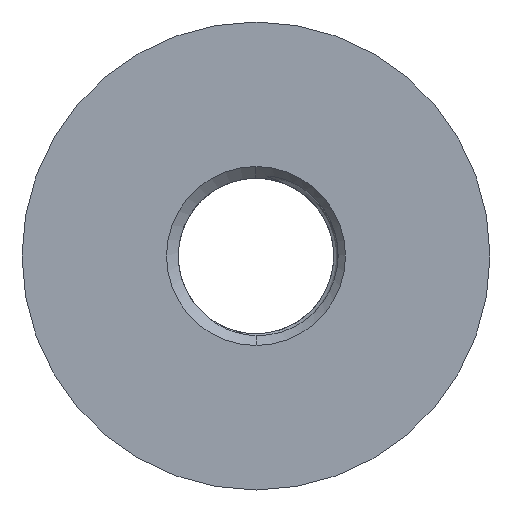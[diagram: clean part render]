
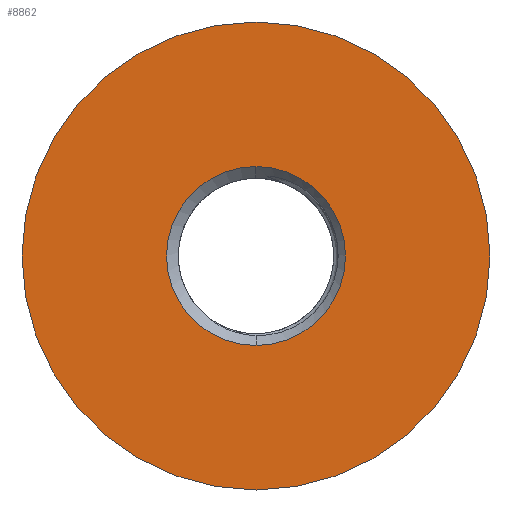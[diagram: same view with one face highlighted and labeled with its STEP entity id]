
A CAD part, left-side view. The second image highlights one B-rep face of the part: STEP entity #8862.
In plain terms, the highlighted planar face has unit normal (-1, 0, 0).
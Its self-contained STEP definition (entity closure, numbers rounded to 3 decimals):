
#2054 = DIRECTION ( 'NONE',  ( 0., 0., 1. ) ) ;
#2055 = DIRECTION ( 'NONE',  ( -1., 0., 0. ) ) ;
#2056 = CARTESIAN_POINT ( 'NONE',  ( -15., 6.912, 0. ) ) ;
#2067 = PLANE ( 'NONE',  #2070 ) ;
#2068 = FACE_BOUND ( 'NONE', #8829, .T. ) ;
#2070 = AXIS2_PLACEMENT_3D ( 'NONE', #2056, #2055, #2054 ) ;
#2071 = FACE_OUTER_BOUND ( 'NONE', #8839, .T. ) ;
#6201 = DIRECTION ( 'NONE',  ( 1., 0., 0. ) ) ;
#6202 = CARTESIAN_POINT ( 'NONE',  ( -15., 0., 0. ) ) ;
#6203 = AXIS2_PLACEMENT_3D ( 'NONE', #6202, #6201, #6613 ) ;
#6204 = CIRCLE ( 'NONE', #6203, 10. ) ;
#6368 = EDGE_CURVE ( 'NONE', #6369, #6370, #6204, .T. ) ;
#6369 = VERTEX_POINT ( 'NONE', #9689 ) ;
#6370 = VERTEX_POINT ( 'NONE', #9688 ) ;
#6613 = DIRECTION ( 'NONE',  ( 0., 0., -1. ) ) ;
#7093 = VERTEX_POINT ( 'NONE', #7982 ) ;
#7095 = EDGE_CURVE ( 'NONE', #7096, #7093, #7981, .T. ) ;
#7096 = VERTEX_POINT ( 'NONE', #7976 ) ;
#7976 = CARTESIAN_POINT ( 'NONE',  ( -15., 0., 3.823 ) ) ;
#7977 = DIRECTION ( 'NONE',  ( 0., 0., 1. ) ) ;
#7978 = DIRECTION ( 'NONE',  ( 1., 0., 0. ) ) ;
#7979 = CARTESIAN_POINT ( 'NONE',  ( -15., 0., 0. ) ) ;
#7980 = AXIS2_PLACEMENT_3D ( 'NONE', #7979, #7978, #7977 ) ;
#7981 = CIRCLE ( 'NONE', #7980, 3.823 ) ;
#7982 = CARTESIAN_POINT ( 'NONE',  ( -15., 0., -3.823 ) ) ;
#8703 = EDGE_CURVE ( 'NONE', #7093, #7096, #9173, .T. ) ;
#8829 = EDGE_LOOP ( 'NONE', ( #8830, #8838 ) ) ;
#8830 = ORIENTED_EDGE ( 'NONE', *, *, #7095, .T. ) ;
#8834 = ORIENTED_EDGE ( 'NONE', *, *, #8835, .F. ) ;
#8835 = EDGE_CURVE ( 'NONE', #6370, #6369, #9266, .T. ) ;
#8838 = ORIENTED_EDGE ( 'NONE', *, *, #8703, .T. ) ;
#8839 = EDGE_LOOP ( 'NONE', ( #8856, #8834 ) ) ;
#8856 = ORIENTED_EDGE ( 'NONE', *, *, #6368, .F. ) ;
#8862 = ADVANCED_FACE ( 'NONE', ( #2068, #2071 ), #2067, .T. ) ;
#9169 = DIRECTION ( 'NONE',  ( 0., 0., 1. ) ) ;
#9170 = DIRECTION ( 'NONE',  ( 1., 0., 0. ) ) ;
#9171 = CARTESIAN_POINT ( 'NONE',  ( -15., 0., 0. ) ) ;
#9172 = AXIS2_PLACEMENT_3D ( 'NONE', #9171, #9170, #9169 ) ;
#9173 = CIRCLE ( 'NONE', #9172, 3.823 ) ;
#9263 = DIRECTION ( 'NONE',  ( 0., 0., -1. ) ) ;
#9264 = DIRECTION ( 'NONE',  ( 1., 0., 0. ) ) ;
#9265 = AXIS2_PLACEMENT_3D ( 'NONE', #9270, #9264, #9263 ) ;
#9266 = CIRCLE ( 'NONE', #9265, 10. ) ;
#9270 = CARTESIAN_POINT ( 'NONE',  ( -15., 0., 0. ) ) ;
#9688 = CARTESIAN_POINT ( 'NONE',  ( -15., 0., 10. ) ) ;
#9689 = CARTESIAN_POINT ( 'NONE',  ( -15., 0., -10. ) ) ;
